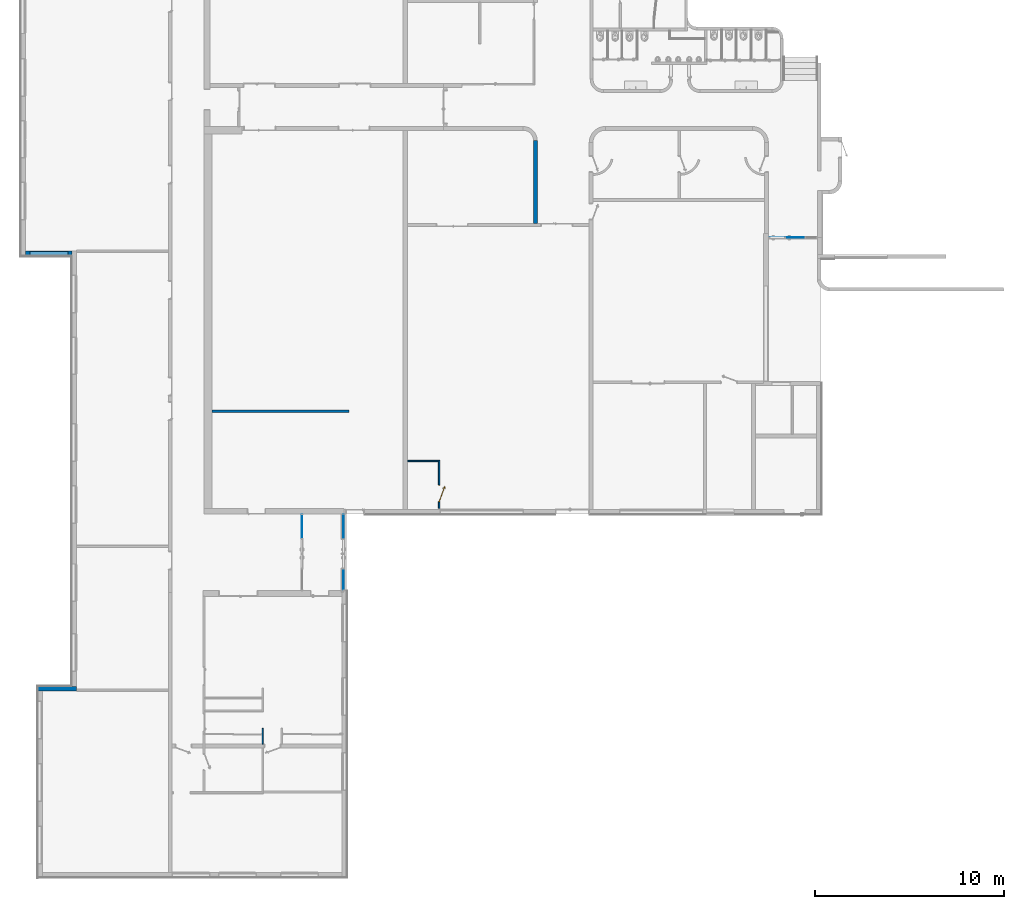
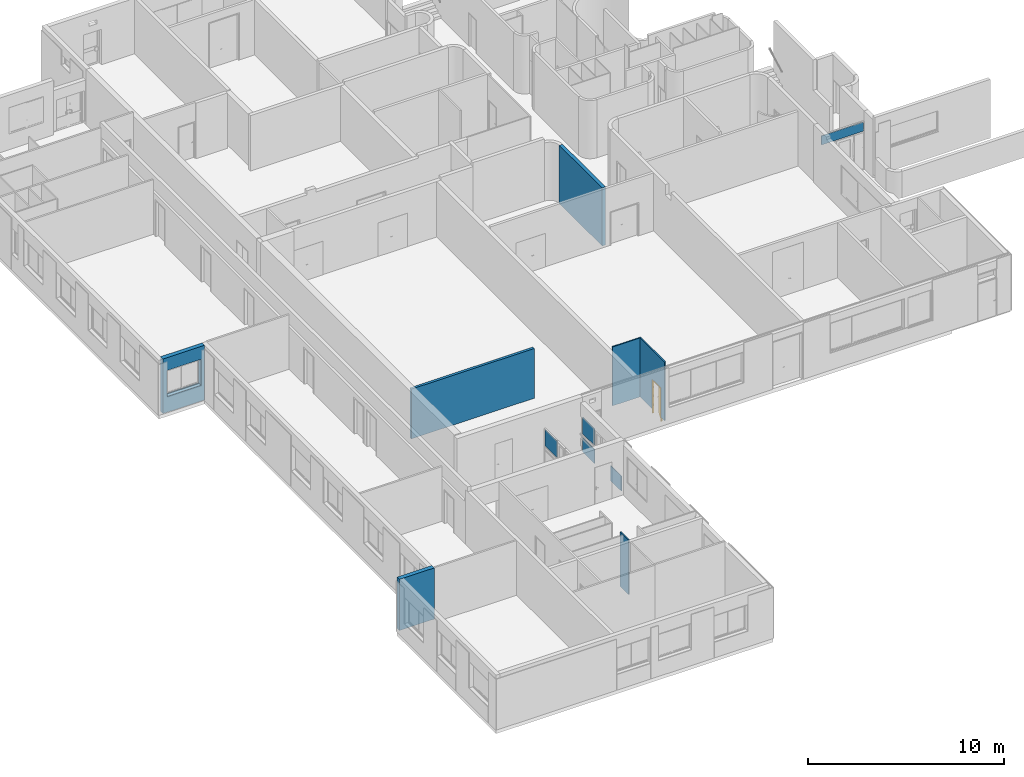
"""IFC2X3 building model written with IfcOpenShell, lengths in metres."""

from ifc_helpers import new_model, entity, si_unit, converted_unit, derived_unit, direction, frame, frame_2d, origin, origin_2d_with_axis, place, context, subcontext, project, spatial, polyline, rectangle, extrude, clip, bounded_halfspace, faceted_brep, source, transform, mapped, material, material_list, layer, layer_set, layer_usage, type_object, type_shapes, element, fill, aggregate, save


model = new_model("IFC2X3")

# Units and contexts
model_context = context("Model", 3, precision=1e-05, world=origin(), true_north=direction((6.12303176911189e-17, 1.0)))
body_context = subcontext(model_context, "Body", "Model", "MODEL_VIEW")
ifc_project = project(units=[si_unit("LENGTHUNIT", "METRE"), si_unit("AREAUNIT", "SQUARE_METRE"), si_unit("VOLUMEUNIT", "CUBIC_METRE"), converted_unit("PLANEANGLEUNIT", "DEGREE", entity("IfcRatioMeasure", 0.0174532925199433), si_unit("PLANEANGLEUNIT", "RADIAN"), dimensions=[0, 0, 0, 0, 0, 0, 0]), si_unit("MASSUNIT", "GRAM", prefix="KILO"), derived_unit("MASSDENSITYUNIT", [(si_unit("MASSUNIT", "GRAM", prefix="KILO"), 1), (si_unit("LENGTHUNIT", "METRE"), -3)]), derived_unit("MOMENTOFINERTIAUNIT", [(si_unit("LENGTHUNIT", "METRE"), 4)]), si_unit("TIMEUNIT", "SECOND"), si_unit("FREQUENCYUNIT", "HERTZ"), si_unit("THERMODYNAMICTEMPERATUREUNIT", "DEGREE_CELSIUS"), derived_unit("THERMALTRANSMITTANCEUNIT", [(si_unit("MASSUNIT", "GRAM", prefix="KILO"), 1), (si_unit("THERMODYNAMICTEMPERATUREUNIT", "KELVIN"), -1), (si_unit("TIMEUNIT", "SECOND"), -3)]), derived_unit("VOLUMETRICFLOWRATEUNIT", [(si_unit("LENGTHUNIT", "METRE"), 3), (si_unit("TIMEUNIT", "SECOND"), -1)]), si_unit("ELECTRICCURRENTUNIT", "AMPERE"), si_unit("ELECTRICVOLTAGEUNIT", "VOLT"), si_unit("POWERUNIT", "WATT"), si_unit("FORCEUNIT", "NEWTON", prefix="KILO"), si_unit("ILLUMINANCEUNIT", "LUX"), si_unit("LUMINOUSFLUXUNIT", "LUMEN"), si_unit("LUMINOUSINTENSITYUNIT", "CANDELA"), derived_unit("USERDEFINED", [(si_unit("MASSUNIT", "GRAM", prefix="KILO"), -1), (si_unit("LENGTHUNIT", "METRE"), -2), (si_unit("TIMEUNIT", "SECOND"), 3), (si_unit("LUMINOUSFLUXUNIT", "LUMEN"), 1)]), derived_unit("LINEARVELOCITYUNIT", [(si_unit("LENGTHUNIT", "METRE"), 1), (si_unit("TIMEUNIT", "SECOND"), -1)]), si_unit("PRESSUREUNIT", "PASCAL"), derived_unit("USERDEFINED", [(si_unit("LENGTHUNIT", "METRE"), -2), (si_unit("MASSUNIT", "GRAM", prefix="KILO"), 1), (si_unit("TIMEUNIT", "SECOND"), -2)]), derived_unit("LINEARFORCEUNIT", [(si_unit("MASSUNIT", "GRAM", prefix="KILO"), 1), (si_unit("LENGTHUNIT", "METRE"), 1), (si_unit("TIMEUNIT", "SECOND"), -2), (si_unit("LENGTHUNIT", "METRE"), -1)]), derived_unit("PLANARFORCEUNIT", [(si_unit("MASSUNIT", "GRAM", prefix="KILO"), 1), (si_unit("LENGTHUNIT", "METRE"), 1), (si_unit("TIMEUNIT", "SECOND"), -2), (si_unit("LENGTHUNIT", "METRE"), -2)])], contexts=[model_context])

# Site, building, storey
site_placement = place(None, origin())
site = spatial("IfcSite", under=ifc_project, at=site_placement, Name="Default", CompositionType="ELEMENT")
building_placement = place(site_placement, origin())
building = spatial("IfcBuilding", under=site, at=building_placement, CompositionType="ELEMENT")
storey_1_placement = place(building_placement, frame((0.0, 0.0, 0.253308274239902)))
storey_1 = spatial("IfcBuildingStorey", under=building, at=storey_1_placement, Name="Niveau 00 - 01", CompositionType="ELEMENT", Elevation=0.253308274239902)

# Curtain wall, plate
curtain_wall_type = type_object("IfcCurtainWallType", Name="Mur-rideau:SANS Calpinage", PredefinedType="NOTDEFINED")
curtain_wall_1_placement = place(storey_1_placement, frame((0.0, 0.0, -0.253308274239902)))
curtain_wall_1 = element("IfcCurtainWall", 1, at=curtain_wall_1_placement, inside=storey_1, type_object=curtain_wall_type, Name="Mur-rideau:SANS Calpinage", ObjectType="Mur-rideau:SANS Calpinage")
ifc_material_1 = material(Name="Verre")
plate_type_1 = type_object("IfcPlateType", Name="Panneau système:Vitré", PredefinedType="CURTAIN_PANEL", material=ifc_material_1)
shared_shape_1 = source(origin(), body_context, "Body", "SweptSolid", [
    extrude(rectangle(XDim=0.561666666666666, YDim=2.46209715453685, at=frame_2d((0.0, 0.0592919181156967), x_axis=(1.0, 0.0))), frame((-0.0592919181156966, -0.02, 0.280833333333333), z_axis=(0.0, 1.0, 0.0), x_axis=(0.0, 0.0, 1.0)), (0.0, 0.0, 1.0), 0.04),
])
type_shapes(plate_type_1, [shared_shape_1])
plate_1_placement = place(curtain_wall_1_placement, frame((-5.22503775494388, -19.8976865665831, 2.63164160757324), z_axis=(0.0, 0.0, 1.0), x_axis=(-1.0, 0.0, 0.0)))
plate_1 = element("IfcPlate", 2, at=plate_1_placement, type_object=plate_type_1, material=ifc_material_1, Name="Panneau système:Vitré", ObjectType="Panneau système:Vitré", context=body_context, shape_type="MappedRepresentation", body=[
    mapped(shared_shape_1, transform((0.0, 0.0, 0.0), scale=1.0)),
])
aggregate(curtain_wall_1, [plate_1])

# Curtain wall, plates
curtain_wall_2_placement = place(storey_1_placement, frame((0.0, 0.0, -0.253308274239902)))
curtain_wall_2 = element("IfcCurtainWall", 3, at=curtain_wall_2_placement, inside=storey_1, type_object=curtain_wall_type, Name="Mur-rideau:SANS Calpinage", ObjectType="Mur-rideau:SANS Calpinage")
plate_type_2 = type_object("IfcPlateType", Name="Panneau système:Vitré", PredefinedType="CURTAIN_PANEL", material=ifc_material_1)
shared_shape_2 = source(origin(), body_context, "Body", "SweptSolid", [
    extrude(rectangle(XDim=0.04, YDim=1.21999999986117, at=origin_2d_with_axis()), frame((0.0, 0.0, 0.0), z_axis=(0.0, 0.0, 1.0), x_axis=(0.0, 1.0, 0.0)), (0.0, 0.0, 1.0), 0.885),
])
type_shapes(plate_type_2, [shared_shape_2])
plate_2_placement = place(curtain_wall_2_placement, frame((-28.9800011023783, -35.1690543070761, 0.303308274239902), z_axis=(0.0, 0.0, 1.0), x_axis=(0.0, -1.0, 0.0)))
plate_2 = element("IfcPlate", 4, at=plate_2_placement, type_object=plate_type_2, material=ifc_material_1, Name="Panneau système:Vitré", ObjectType="Panneau système:Vitré", context=body_context, shape_type="MappedRepresentation", body=[
    mapped(shared_shape_2, transform((0.0, 0.0, 0.0), scale=1.0)),
])
plate_type_3 = type_object("IfcPlateType", Name="Panneau système:Vitré", PredefinedType="CURTAIN_PANEL", material=ifc_material_1)
shared_shape_3 = source(origin(), body_context, "Body", "SweptSolid", [
    extrude(rectangle(XDim=0.04, YDim=1.08836982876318, at=origin_2d_with_axis()), frame((0.0, 0.0, 0.0), z_axis=(0.0, 0.0, 1.0), x_axis=(0.0, 1.0, 0.0)), (0.0, 0.0, 1.0), 0.935),
])
type_shapes(plate_type_3, [shared_shape_3])
plate_3_placement = place(curtain_wall_2_placement, frame((-28.9800011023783, -37.9648693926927, 0.253308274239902), z_axis=(0.0, 0.0, 1.0), x_axis=(0.0, -1.0, 0.0)))
plate_3 = element("IfcPlate", 5, at=plate_3_placement, type_object=plate_type_3, material=ifc_material_1, Name="Panneau système:Vitré", ObjectType="Panneau système:Vitré", context=body_context, shape_type="MappedRepresentation", body=[
    mapped(shared_shape_3, transform((0.0, 0.0, 0.0), scale=1.0)),
])
plate_type_4 = type_object("IfcPlateType", Name="Panneau système:Vitré", PredefinedType="CURTAIN_PANEL", material=ifc_material_1)
shared_shape_4 = source(origin(), body_context, "Body", "SweptSolid", [
    extrude(rectangle(XDim=0.04, YDim=1.21999999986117, at=origin_2d_with_axis()), frame((0.0, 0.0, 0.0), z_axis=(0.0, 0.0, 1.0), x_axis=(0.0, 1.0, 0.0)), (0.0, 0.0, 1.0), 1.01536451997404),
])
type_shapes(plate_type_4, [shared_shape_4])
plate_4_placement = place(curtain_wall_2_placement, frame((-28.9800011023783, -35.1690543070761, 1.44844579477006), z_axis=(0.0, 0.0, 1.0), x_axis=(0.0, -1.0, 0.0)))
plate_4 = element("IfcPlate", 6, at=plate_4_placement, type_object=plate_type_4, material=ifc_material_1, Name="Panneau système:Vitré", ObjectType="Panneau système:Vitré", context=body_context, shape_type="MappedRepresentation", body=[
    mapped(shared_shape_4, transform((0.0, 0.0, 0.0), scale=1.0)),
])
aggregate(curtain_wall_2, [plate_2, plate_3, plate_4])

# Curtain wall, plate
curtain_wall_3_placement = place(storey_1_placement, frame((0.0, 0.0, -0.253308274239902)))
curtain_wall_3 = element("IfcCurtainWall", 7, at=curtain_wall_3_placement, inside=storey_1, type_object=curtain_wall_type, Name="Mur-rideau:SANS Calpinage", ObjectType="Mur-rideau:SANS Calpinage")
plate_5_placement = place(curtain_wall_3_placement, frame((-31.1800011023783, -35.1690543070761, 1.44844579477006), z_axis=(0.0, 0.0, 1.0), x_axis=(0.0, -1.0, 0.0)))
plate_5 = element("IfcPlate", 8, at=plate_5_placement, type_object=plate_type_4, material=ifc_material_1, Name="Panneau système:Vitré", ObjectType="Panneau système:Vitré", context=body_context, shape_type="MappedRepresentation", body=[
    mapped(shared_shape_4, transform((0.0, 0.0, 0.0), scale=1.0)),
])
aggregate(curtain_wall_3, [plate_5])

# Wall
ifc_material_2 = material(Name="Maçonnerie - Voile BA")
ifc_layer_1 = layer(ifc_material_2, 0.25)
ifc_layer_set_1 = layer_set([ifc_layer_1], Name="Mur de base:Ext. Voile BA 250")
ifc_layer_usage_1 = layer_usage(ifc_layer_set_1, "AXIS2", "NEGATIVE", 0.125)
wall_type_1 = type_object("IfcWallType", Name="Mur de base:Ext. Voile BA 250", PredefinedType="STANDARD", material=ifc_layer_set_1)
wall_1_placement = place(storey_1_placement, frame((-43.0929002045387, -43.7421378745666, 0.213308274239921), z_axis=(0.0, 0.0, 1.0), x_axis=(-1.0, -1.08992997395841e-09, 0.0)))
element("IfcWallStandardCase", 9, at=wall_1_placement, inside=storey_1, type_object=wall_type_1, material=ifc_layer_usage_1, Name="Mur de base:Ext. Voile BA 250", ObjectType="Mur de base:Ext. Voile BA 250", context=body_context, shape_type="SweptSolid", body=[
    extrude(rectangle(XDim=2.04880031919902, YDim=0.249999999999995, at=frame_2d((1.02440015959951, -1.80411241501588e-15), x_axis=(-1.0, 0.0))), origin(), (0.0, 0.0, 1.0), 3.1852562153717),
])

# Wall, opening
ifc_layer_usage_2 = layer_usage(ifc_layer_set_1, "AXIS2", "POSITIVE", -0.125)
wall_2_placement = place(storey_1_placement, frame((-43.3429002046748, -20.7416974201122, 0.0), z_axis=(0.0, 0.0, 1.0), x_axis=(-1.0, 0.0, 0.0)))
wall_2 = element("IfcWallStandardCase", 10, at=wall_2_placement, inside=storey_1, type_object=wall_type_1, material=ifc_layer_usage_2, Name="Mur de base:Ext. Voile BA 250", ObjectType="Mur de base:Ext. Voile BA 250", context=body_context, shape_type="SweptSolid", body=[
    extrude(rectangle(XDim=2.44633727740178, YDim=0.250000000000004, at=frame_2d((1.22316863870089, -2.77555756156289e-17), x_axis=(-1.0, 0.0))), origin(), (0.0, 0.0, 1.0), 3.39856448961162),
])
opening_1_placement = place(wall_2_placement, frame((2.19816863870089, 0.125000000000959, 0.964999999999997), z_axis=(0.0, 0.0, 1.0), x_axis=(-1.0, 0.0, 0.0)))
element("IfcOpeningElement", 11, at=opening_1_placement, cuts=wall_2, Name="Mur de base:Ext. Voile BA 250", ObjectType="Opening", context=body_context, shape_type="Brep", body=[
    faceted_brep([(2.0, 0.250000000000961, 1.635), (2.0, 0.0, 1.635), (2.0, 0.0, 0.0149999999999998), (2.0, 0.0399999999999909, 0.0149999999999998), (2.0, 0.0399999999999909, 0.0), (2.0, 0.220000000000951, 0.0), (2.0, 0.220000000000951, 0.0350000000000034), (2.0, 0.250000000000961, 0.0350000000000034), (0.0, 0.250000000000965, 1.635), (0.0, 0.250000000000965, 0.0350000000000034), (0.0, 0.220000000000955, 0.0350000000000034), (0.0, 0.220000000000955, 0.0), (0.0, 0.0399999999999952, 0.0), (0.0, 0.0399999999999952, 0.0149999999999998), (0.0, 0.0, 0.0149999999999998), (0.0, 0.0, 1.635)], [[[0, 1, 2, 3, 4, 5, 6, 7]], [[8, 9, 10, 11, 12, 13, 14, 15]], [[7, 9, 8, 0]], [[6, 10, 9, 7]], [[5, 11, 10, 6]], [[4, 12, 11, 5]], [[3, 13, 12, 4]], [[2, 14, 13, 3]], [[1, 15, 14, 2]], [[0, 8, 15, 1]]]),
])

# Walls
ifc_layer_2 = layer(ifc_material_2, 0.2)
ifc_layer_set_2 = layer_set([ifc_layer_2], Name="Mur de base:Ext. Voile BA 200")
ifc_layer_usage_3 = layer_usage(ifc_layer_set_2, "AXIS2", "NEGATIVE", 0.1)
wall_type_2 = type_object("IfcWallType", Name="Mur de base:Ext. Voile BA 200", PredefinedType="STANDARD", material=ifc_layer_set_2)
wall_3_placement = place(storey_1_placement, frame((-18.8439891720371, -14.7791151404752, 0.0), z_axis=(0.0, 0.0, 1.0), x_axis=(0.0, -1.0, 0.0)))
element("IfcWallStandardCase", 12, at=wall_3_placement, inside=storey_1, type_object=wall_type_2, material=ifc_layer_usage_3, Name="Mur de base:Ext. Voile BA 200", ObjectType="Mur de base:Ext. Voile BA 200", context=body_context, shape_type="Clipping", body=[
    clip(extrude(rectangle(XDim=4.37993916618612, YDim=0.200000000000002, at=frame_2d((2.18996958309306, -2.63677968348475e-16), x_axis=(-1.0, 0.0))), origin(), (0.0, 0.0, 1.0), 3.61856448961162), bounded_halfspace(frame((0.0, -0.099999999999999, 3.61856448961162), z_axis=(0.0, 0.0, -1.0), x_axis=(-1.0, 0.0, 0.0)), True, frame((0.0, -0.099999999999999, 3.61856448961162)), polyline([(0.0, 0.0), (4.37993916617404, 0.0), (4.37993916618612, 0.199999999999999), (0.0, 0.2), (0.0, 0.0)]))),
])
ifc_material_3 = material(Name="Mur par défaut")
ifc_layer_3 = layer(ifc_material_3, 0.15)
ifc_layer_set_3 = layer_set([ifc_layer_3], Name="Mur de base:@_Générique - Int. 150 mm")
ifc_layer_usage_4 = layer_usage(ifc_layer_set_3, "AXIS2", "NEGATIVE", 0.075)
wall_type_3 = type_object("IfcWallType", Name="Mur de base:@_Générique - Int. 150 mm", PredefinedType="STANDARD", material=ifc_layer_set_3)
wall_4_placement = place(storey_1_placement, frame((-35.9439891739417, -29.075292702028, 0.0)))
element("IfcWallStandardCase", 13, at=wall_4_placement, inside=storey_1, type_object=wall_type_3, material=ifc_layer_usage_4, Name="Mur de base:@_Générique - Int. 150 mm", ObjectType="Mur de base:@_Générique - Int. 150 mm", context=body_context, shape_type="SweptSolid", body=[
    extrude(rectangle(XDim=7.24192245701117, YDim=0.150000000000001, at=frame_2d((3.62096122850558, 1.38777878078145e-17), x_axis=(-1.0, 0.0))), origin(), (0.0, 0.0, 1.0), 3.1),
])
ifc_layer_4 = layer(ifc_material_3, 0.07)
ifc_layer_set_4 = layer_set([ifc_layer_4], Name="Mur de base:@_Générique - Int. 70 mm")
ifc_layer_usage_5 = layer_usage(ifc_layer_set_4, "AXIS2", "NEGATIVE", 0.035)
wall_type_4 = type_object("IfcWallType", Name="Mur de base:@_Générique - Int. 70 mm", PredefinedType="STANDARD", material=ifc_layer_set_4)
wall_5_placement = place(storey_1_placement, frame((-33.248890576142, -46.6744568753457, 0.0), z_axis=(0.0, 0.0, 1.0), x_axis=(0.0, 1.0, 0.0)))
element("IfcWallStandardCase", 14, at=wall_5_placement, inside=storey_1, type_object=wall_type_4, material=ifc_layer_usage_5, Name="Mur de base:@_Générique - Int. 70 mm", ObjectType="Mur de base:@_Générique - Int. 70 mm", context=body_context, shape_type="Clipping", body=[
    clip(extrude(rectangle(XDim=0.84, YDim=0.0700000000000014, at=frame_2d((0.42, -1.49533163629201e-15), x_axis=(-1.0, 0.0))), origin(), (0.0, 0.0, 1.0), 3.4), bounded_halfspace(frame((0.0, -0.0349999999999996, 3.4), z_axis=(0.0, 0.0, -1.0), x_axis=(-1.0, 0.0, 0.0)), True, frame((0.0, -0.0349999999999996, 3.4)), polyline([(0.0, 0.0), (0.84, 0.0), (0.84, 0.0699999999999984), (0.578489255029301, 0.070000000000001), (0.5084892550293, 0.0700000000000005), (0.0, 0.0700000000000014), (0.0, 0.0)]))),
])
ifc_layer_usage_6 = layer_usage(ifc_layer_set_4, "AXIS2", "POSITIVE", -0.035)
wall_6_placement = place(storey_1_placement, frame((-25.5939891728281, -31.7040543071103, 0.0)))
element("IfcWallStandardCase", 15, at=wall_6_placement, inside=storey_1, type_object=wall_type_4, material=ifc_layer_usage_6, Name="Mur de base:@_Générique - Int. 70 mm", ObjectType="Mur de base:@_Générique - Int. 70 mm", context=body_context, shape_type="SweptSolid", body=[
    extrude(rectangle(XDim=1.63000000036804, YDim=0.0700000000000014, at=frame_2d((0.815000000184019, -1.17961196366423e-16), x_axis=(-1.0, 0.0))), origin(), (0.0, 0.0, 1.0), 3.66856448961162),
])

# Wall, opening
ifc_layer_usage_7 = layer_usage(ifc_layer_set_4, "AXIS2", "POSITIVE", -0.035)
wall_7_placement = place(storey_1_placement, frame((-23.9289891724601, -31.6690543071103, 0.0), z_axis=(0.0, 0.0, 1.0), x_axis=(0.0, -1.0, 0.0)))
wall_7 = element("IfcWallStandardCase", 16, at=wall_7_placement, inside=storey_1, type_object=wall_type_4, material=ifc_layer_usage_7, Name="Mur de base:@_Générique - Int. 70 mm", ObjectType="Mur de base:@_Générique - Int. 70 mm", context=body_context, shape_type="SweptSolid", body=[
    extrude(rectangle(XDim=2.53999999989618, YDim=0.0700000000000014, at=frame_2d((1.26999999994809, -1.06858966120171e-15), x_axis=(-1.0, 0.0))), origin(), (0.0, 0.0, 1.0), 3.66856448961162),
])
opening_2_placement = place(wall_7_placement, frame((1.29499999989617, -0.0350000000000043, -0.253308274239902)))
opening_2 = element("IfcOpeningElement", 17, at=opening_2_placement, cuts=wall_7, Name="@_Int. Simple:@_PP (0.83m x 2.04m):1", ObjectType="Opening", context=body_context, shape_type="SweptSolid", body=[
    extrude(rectangle(XDim=2.075, YDim=0.9, at=frame_2d((1.0375, 0.45), x_axis=(1.0, 0.0))), frame((0.0, 0.0, 0.0), z_axis=(0.0, 1.0, 0.0), x_axis=(0.0, 0.0, 1.0)), (0.0, 0.0, 1.0), 0.07),
])

# Storey
storey_2_placement = place(building_placement, origin())
storey_2 = spatial("IfcBuildingStorey", under=building, at=storey_2_placement, Name="Niveau 00", CompositionType="ELEMENT", Elevation=0.0)

# Door
ifc_material_4 = material(Name="@_Finition Peinture - Blanc satiné")
ifc_material_5 = material(Name="RAL1013-Blanc perle")
ifc_material_list_1 = material_list([ifc_material_4, ifc_material_5])
ifc_material_list_2 = material_list([ifc_material_5, ifc_material_5, ifc_material_5, ifc_material_4])
door_style = type_object("IfcDoorStyle", Name="@_Int. Simple:@_PP (0.83m x 2.04m)", ConstructionType="NOTDEFINED", OperationType="NOTDEFINED", ParameterTakesPrecedence=False, Sizeable=False, material=ifc_material_list_2)
shared_shape_5 = source(origin(), body_context, "Body", "Brep", [
    faceted_brep([(0.845647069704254, -0.274894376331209, 0.870000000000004), (0.845647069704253, -0.274894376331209, 1.08), (0.836581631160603, -0.271594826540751, 1.08399601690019), (0.826853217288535, -0.268053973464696, 1.08535898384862), (0.817124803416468, -0.264513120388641, 1.08399601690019), (0.808059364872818, -0.261213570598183, 1.08), (0.808059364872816, -0.261213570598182, 0.870000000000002), (0.817124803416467, -0.26451312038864, 0.866003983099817), (0.826853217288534, -0.268053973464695, 0.86464101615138), (0.836581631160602, -0.27159482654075, 0.866003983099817), (0.847357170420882, -0.27019591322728, 1.08), (0.847357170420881, -0.270195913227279, 0.870000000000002), (0.83829173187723, -0.266896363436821, 0.866003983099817), (0.828563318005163, -0.263355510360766, 0.86464101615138), (0.818834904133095, -0.259814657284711, 0.866003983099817), (0.809769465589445, -0.256515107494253, 0.870000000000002), (0.809769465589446, -0.256515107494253, 1.08), (0.818834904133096, -0.259814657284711, 1.08399601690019), (0.828563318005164, -0.263355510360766, 1.08535898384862), (0.838291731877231, -0.266896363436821, 1.08399601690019)], [[[0, 1, 2, 3, 4, 5, 6, 7, 8, 9]], [[10, 11, 12, 13, 14, 15, 16, 17, 18, 19]], [[9, 12, 11, 0]], [[8, 13, 12, 9]], [[7, 14, 13, 8]], [[7, 6, 15, 14]], [[15, 6, 5, 16]], [[4, 17, 16, 5]], [[3, 18, 17, 4]], [[2, 19, 18, 3]], [[2, 1, 10, 19]], [[11, 10, 1, 0]]]),
    faceted_brep([(0.861037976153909, -0.232608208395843, 0.870000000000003), (0.861037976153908, -0.232608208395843, 1.08), (0.851972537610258, -0.229308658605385, 1.08399601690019), (0.842244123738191, -0.22576780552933, 1.08535898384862), (0.832515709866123, -0.222226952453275, 1.08399601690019), (0.823450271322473, -0.218927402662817, 1.08), (0.823450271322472, -0.218927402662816, 0.870000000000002), (0.832515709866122, -0.222226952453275, 0.866003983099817), (0.842244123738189, -0.22576780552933, 0.86464101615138), (0.851972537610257, -0.229308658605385, 0.866003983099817), (0.843954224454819, -0.2210693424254, 1.08535898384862), (0.853682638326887, -0.224610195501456, 1.08399601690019), (0.862748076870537, -0.227909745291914, 1.08), (0.862748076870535, -0.227909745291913, 0.870000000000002), (0.853682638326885, -0.224610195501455, 0.866003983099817), (0.843954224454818, -0.2210693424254, 0.86464101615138), (0.83422581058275, -0.217528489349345, 0.866003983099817), (0.8251603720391, -0.214228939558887, 0.870000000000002), (0.825160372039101, -0.214228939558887, 1.08), (0.834225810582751, -0.217528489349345, 1.08399601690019)], [[[0, 1, 2, 3, 4, 5, 6, 7, 8, 9]], [[10, 11, 12, 13, 14, 15, 16, 17, 18, 19]], [[4, 19, 18, 5]], [[3, 10, 19, 4]], [[2, 11, 10, 3]], [[2, 1, 12, 11]], [[13, 12, 1, 0]], [[9, 14, 13, 0]], [[8, 15, 14, 9]], [[7, 16, 15, 8]], [[7, 6, 17, 16]], [[17, 6, 5, 18]]]),
    faceted_brep([(0.824950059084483, -0.267361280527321, 1.00778044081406), (0.828756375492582, -0.268746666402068, 1.00778044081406), (0.832491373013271, -0.270106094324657, 1.00699999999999), (0.83249137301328, -0.27010609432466, 0.992999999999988), (0.82875637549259, -0.268746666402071, 0.99221955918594), (0.824950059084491, -0.267361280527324, 0.992219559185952), (0.821215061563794, -0.266001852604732, 0.993000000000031), (0.821215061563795, -0.266001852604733, 1.007), (0.819862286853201, -0.293182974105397, 1.00778044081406), (0.823034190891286, -0.296089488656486, 1.007), (0.816629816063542, -0.290220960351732, 1.00778044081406), (0.799100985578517, -0.298394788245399, 1.00778044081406), (0.799292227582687, -0.302774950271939, 1.00778044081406), (0.813457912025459, -0.287314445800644, 1.007), (0.813457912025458, -0.287314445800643, 0.993000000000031), (0.816629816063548, -0.290220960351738, 0.992219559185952), (0.819862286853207, -0.293182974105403, 0.99221955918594), (0.799292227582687, -0.302774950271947, 0.99221955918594), (0.799100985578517, -0.298394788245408, 0.992219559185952), (0.823034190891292, -0.296089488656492, 0.992999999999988), (0.799479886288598, -0.307073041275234, 1.007), (0.798913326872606, -0.294096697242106, 1.007), (0.798913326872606, -0.294096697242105, 0.993000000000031), (0.799479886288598, -0.307073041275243, 0.992999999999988), (0.717123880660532, -0.277097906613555, 1.007), (0.71848330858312, -0.273362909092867, 1.00778044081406), (0.719868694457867, -0.269556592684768, 1.00778044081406), (0.721228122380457, -0.265821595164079, 1.00699999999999), (0.721228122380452, -0.26582159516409, 0.993000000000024), (0.719868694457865, -0.269556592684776, 0.992219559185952), (0.718483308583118, -0.273362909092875, 0.99221955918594), (0.717123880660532, -0.277097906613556, 0.992999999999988), (0.758792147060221, -0.285878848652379, 1.0078786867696), (0.761957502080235, -0.293416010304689, 1.007), (0.760070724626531, -0.279959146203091, 1.007), (0.76007072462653, -0.279959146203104, 0.993000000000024), (0.758792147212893, -0.285878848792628, 0.992121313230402), (0.761957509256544, -0.293416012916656, 0.992999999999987)], [[[0, 1, 2, 3, 4, 5, 6, 7]], [[2, 1, 8, 9]], [[1, 0, 10, 11, 12, 8]], [[0, 7, 13, 10]], [[14, 13, 7, 6]], [[5, 15, 14, 6]], [[5, 4, 16, 17, 18, 15]], [[3, 19, 16, 4]], [[9, 19, 3, 2]], [[9, 8, 12, 20]], [[10, 13, 21, 11]], [[22, 21, 13, 14]], [[14, 15, 18, 22]], [[16, 19, 23, 17]], [[20, 23, 19, 9]], [[24, 25, 26, 27, 28, 29, 30, 31]], [[32, 25, 33]], [[33, 25, 24]], [[33, 20, 12]], [[11, 34, 32]], [[34, 11, 21]], [[27, 26, 34]], [[32, 26, 25]], [[32, 34, 26]], [[32, 33, 12]], [[11, 32, 12]], [[21, 22, 35, 28, 27, 34]], [[36, 29, 35]], [[30, 36, 37]], [[18, 35, 22]], [[29, 28, 35]], [[30, 37, 31]], [[37, 17, 23]], [[36, 17, 37]], [[36, 18, 17]], [[36, 35, 18]], [[29, 36, 30]], [[23, 20, 33, 24, 31, 37]]]),
    faceted_brep([(0.842051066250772, -0.220376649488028, 0.992219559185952), (0.845857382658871, -0.221762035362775, 0.99221955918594), (0.849592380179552, -0.223121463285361, 0.992999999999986), (0.849592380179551, -0.22312146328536, 1.007), (0.845857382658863, -0.221762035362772, 1.00778044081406), (0.842051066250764, -0.220376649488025, 1.00778044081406), (0.838316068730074, -0.219017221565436, 1.007), (0.838316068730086, -0.21901722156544, 0.993000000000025), (0.846006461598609, -0.197888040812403, 1.007), (0.84600646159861, -0.197888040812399, 0.993000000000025), (0.850304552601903, -0.197700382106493, 1.00778044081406), (0.854684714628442, -0.197509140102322, 1.00778044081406), (0.845010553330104, -0.176762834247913, 1.00778044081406), (0.842048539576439, -0.179995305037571, 1.00778044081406), (0.858982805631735, -0.197321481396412, 1.007), (0.858982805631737, -0.197321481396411, 0.992999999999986), (0.854684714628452, -0.197509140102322, 0.99221955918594), (0.850304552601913, -0.197700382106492, 0.992219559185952), (0.842048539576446, -0.179995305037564, 0.992219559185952), (0.845010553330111, -0.176762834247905, 0.99221955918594), (0.839142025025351, -0.183167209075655, 1.007), (0.839142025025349, -0.183167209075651, 0.993000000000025), (0.847917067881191, -0.173590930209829, 1.007), (0.847917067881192, -0.173590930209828, 0.992999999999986), (0.762919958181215, -0.151194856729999, 1.00778044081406), (0.764305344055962, -0.1473885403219, 1.00778044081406), (0.765664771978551, -0.14365354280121, 1.007), (0.765664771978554, -0.143653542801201, 0.992999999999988), (0.764305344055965, -0.147388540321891, 0.99221955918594), (0.762919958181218, -0.15119485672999, 0.992219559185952), (0.761560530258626, -0.154929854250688, 0.993000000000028), (0.761560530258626, -0.154929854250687, 1.007), (0.800351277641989, -0.169048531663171, 1.007), (0.800351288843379, -0.169048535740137, 0.993000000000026), (0.803176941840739, -0.163691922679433, 1.0078786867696), (0.81039468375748, -0.159933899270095, 1.007), (0.810394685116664, -0.159933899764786, 0.992999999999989), (0.803176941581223, -0.163691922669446, 0.992121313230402)], [[[0, 1, 2, 3, 4, 5, 6, 7]], [[8, 9, 7, 6]], [[5, 10, 8, 6]], [[5, 4, 11, 12, 13, 10]], [[3, 14, 11, 4]], [[14, 3, 2, 15]], [[2, 1, 16, 15]], [[1, 0, 17, 18, 19, 16]], [[0, 7, 9, 17]], [[20, 21, 9, 8]], [[8, 10, 13, 20]], [[14, 22, 12, 11]], [[23, 22, 14, 15]], [[15, 16, 19, 23]], [[17, 9, 21, 18]], [[24, 25, 26, 27, 28, 29, 30, 31]], [[21, 20, 32, 31, 30, 33]], [[34, 24, 32]], [[25, 34, 35]], [[13, 32, 20]], [[24, 31, 32]], [[25, 35, 26]], [[35, 12, 22]], [[34, 12, 35]], [[34, 13, 12]], [[34, 32, 13]], [[24, 34, 25]], [[22, 23, 36, 27, 26, 35]], [[37, 28, 36]], [[36, 28, 27]], [[36, 23, 19]], [[18, 33, 37]], [[33, 18, 21]], [[30, 29, 33]], [[37, 29, 28]], [[37, 33, 29]], [[37, 36, 19]], [[18, 37, 19]]]),
    faceted_brep([(0.898625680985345, -0.246289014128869, 2.04), (0.898625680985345, -0.246289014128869, 0.0), (0.118680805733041, 0.0375877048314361, 0.0), (0.118680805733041, 0.0375877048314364, 2.04), (0.884944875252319, -0.283876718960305, 2.04), (0.105000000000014, 0.0, 2.04), (0.105000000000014, 0.0, 0.0), (0.884944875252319, -0.283876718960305, 0.0)], [[[0, 1, 2, 3]], [[4, 5, 6, 7]], [[3, 5, 4, 0]], [[2, 6, 5, 3]], [[1, 7, 6, 2]], [[0, 4, 7, 1]]]),
    faceted_brep([(0.970000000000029, 0.0, 0.0), (0.935000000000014, 0.0, 0.0), (0.935000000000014, 0.04, 0.0), (0.920000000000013, 0.04, 0.0), (0.920000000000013, 0.0699999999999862, 0.0), (0.970000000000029, 0.0699999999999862, 0.0), (0.970000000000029, 0.0699999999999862, 2.07500000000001), (0.970000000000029, 0.0, 2.07500000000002), (0.920000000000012, 0.0699999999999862, 2.025), (0.120000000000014, 0.0699999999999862, 2.025), (0.120000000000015, 0.0699999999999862, 0.0), (0.0699999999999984, 0.0699999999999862, 0.0), (0.0699999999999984, 0.0699999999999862, 2.07500000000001), (0.920000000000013, 0.04, 2.025), (0.935000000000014, 0.04, 2.04), (0.105000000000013, 0.04, 2.04), (0.105000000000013, 0.04, 0.0), (0.120000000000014, 0.04, 0.0), (0.120000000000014, 0.04, 2.025), (0.935000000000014, 0.0, 2.04), (0.0699999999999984, 0.0, 2.07500000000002), (0.0699999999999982, 0.0, 0.0), (0.105000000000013, 0.0, 0.0), (0.105000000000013, 0.0, 2.04)], [[[0, 1, 2, 3, 4, 5]], [[5, 6, 7, 0]], [[4, 8, 9, 10, 11, 12, 6, 5]], [[3, 13, 8, 4]], [[2, 14, 15, 16, 17, 18, 13, 3]], [[1, 19, 14, 2]], [[0, 7, 20, 21, 22, 23, 19, 1]], [[12, 11, 21, 20]], [[21, 11, 10, 17, 16, 22]], [[18, 17, 10, 9]], [[23, 22, 16, 15]], [[6, 12, 20, 7]], [[13, 18, 9, 8]], [[19, 23, 15, 14]]]),
    faceted_brep([(0.955000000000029, 0.0699999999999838, 0.0), (0.955000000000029, 0.0749999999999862, 0.0), (0.985000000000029, 0.0749999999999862, 0.0), (0.985000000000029, 0.0699999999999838, 0.0), (0.985000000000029, 0.0699999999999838, 2.09000000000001), (0.0550000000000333, 0.0699999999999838, 2.09000000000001), (0.0550000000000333, 0.0699999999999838, 0.0), (0.0850000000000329, 0.0699999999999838, 0.0), (0.0850000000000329, 0.0699999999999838, 2.06000000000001), (0.955000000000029, 0.0699999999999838, 2.06000000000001), (0.985000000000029, 0.0749999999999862, 2.09000000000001), (0.955000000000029, 0.0749999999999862, 2.06000000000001), (0.0850000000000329, 0.0749999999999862, 2.06000000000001), (0.0850000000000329, 0.0749999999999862, 0.0), (0.0550000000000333, 0.0749999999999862, 0.0), (0.0550000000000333, 0.0749999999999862, 2.09000000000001)], [[[0, 1, 2, 3]], [[3, 4, 5, 6, 7, 8, 9, 0]], [[2, 10, 4, 3]], [[1, 11, 12, 13, 14, 15, 10, 2]], [[0, 9, 11, 1]], [[7, 6, 14, 13]], [[8, 7, 13, 12]], [[15, 14, 6, 5]], [[10, 15, 5, 4]], [[9, 8, 12, 11]]]),
    faceted_brep([(0.985000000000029, -0.00499999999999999, 0.0), (0.985000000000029, -0.00499999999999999, 2.09000000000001), (0.0550000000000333, -0.00499999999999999, 2.09000000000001), (0.0550000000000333, -0.00499999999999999, 0.0), (0.0850000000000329, -0.00499999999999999, 0.0), (0.0850000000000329, -0.00499999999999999, 2.06000000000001), (0.955000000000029, -0.00499999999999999, 2.06000000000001), (0.955000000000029, -0.00499999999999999, 0.0), (0.985000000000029, 0.0, 0.0), (0.985000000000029, 0.0, 2.09000000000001), (0.955000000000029, 0.0, 0.0), (0.955000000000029, 0.0, 2.06000000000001), (0.0850000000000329, 0.0, 2.06000000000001), (0.0850000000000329, 0.0, 0.0), (0.0550000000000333, 0.0, 0.0), (0.0550000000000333, 0.0, 2.09000000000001)], [[[0, 1, 2, 3, 4, 5, 6, 7]], [[8, 9, 1, 0]], [[10, 11, 12, 13, 14, 15, 9, 8]], [[7, 6, 11, 10]], [[5, 4, 13, 12]], [[15, 14, 3, 2]], [[9, 15, 2, 1]], [[6, 5, 12, 11]], [[4, 3, 14, 13]], [[7, 10, 8, 0]]]),
])
type_shapes(door_style, [shared_shape_5])
door_placement = place(opening_2_placement, frame((0.970000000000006, 0.0700000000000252, 0.0), z_axis=(0.0, 0.0, 1.0), x_axis=(-1.0, 0.0, 0.0)))
door = element("IfcDoor", 18, at=door_placement, inside=storey_2, type_object=door_style, material=ifc_material_list_1, Name="@_Int. Simple:@_PP (0.83m x 2.04m)", ObjectType="@_Int. Simple:@_PP (0.83m x 2.04m)", OverallHeight=2.075, OverallWidth=0.899999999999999, context=body_context, shape_type="MappedRepresentation", body=[
    mapped(shared_shape_5, transform((0.0, 0.0, 0.0), scale=1.0)),
])

fill(opening_2, door)

save(model, "model.ifc")
